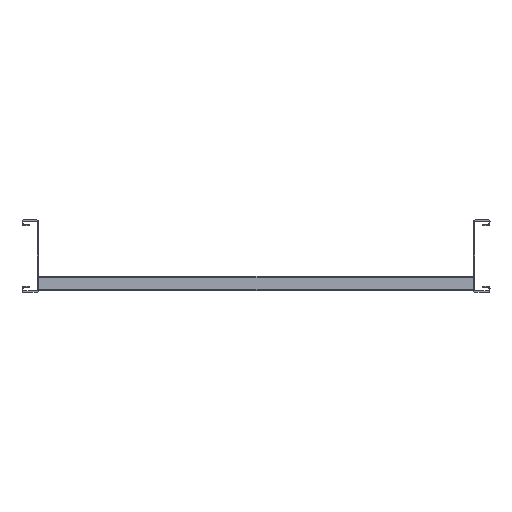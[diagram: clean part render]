
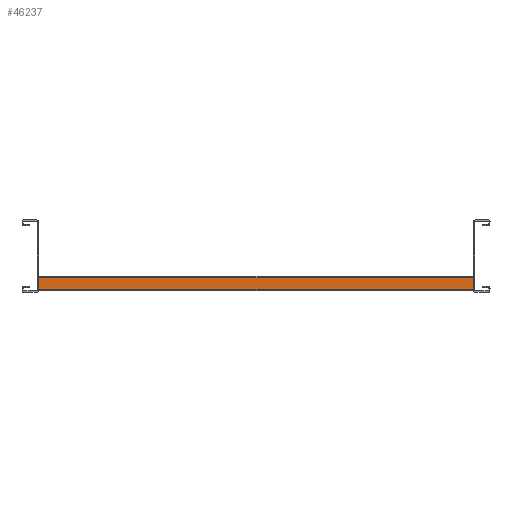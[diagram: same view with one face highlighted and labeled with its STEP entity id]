
A CAD part, left-side view. The second image highlights one B-rep face of the part: STEP entity #46237.
In plain terms, the highlighted planar face has unit normal (-1, 0, 0) as drawn and (0, 1, 0) by its records, which use the part's own axes.
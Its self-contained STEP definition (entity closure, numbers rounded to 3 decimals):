
#3223=FACE_OUTER_BOUND('',#6361,.T.);
#6361=EDGE_LOOP('',(#41714,#41715,#41716,#41717));
#12551=LINE('',#71196,#18711);
#12557=LINE('',#71213,#18717);
#12698=LINE('',#71738,#18858);
#12699=LINE('',#71740,#18859);
#18711=VECTOR('',#58586,304.8);
#18717=VECTOR('',#58598,304.8);
#18858=VECTOR('',#59007,304.8);
#18859=VECTOR('',#59010,304.8);
#22946=VERTEX_POINT('',#71193);
#22947=VERTEX_POINT('',#71195);
#22954=VERTEX_POINT('',#71210);
#22955=VERTEX_POINT('',#71212);
#29146=EDGE_CURVE('',#22946,#22947,#12551,.T.);
#29154=EDGE_CURVE('',#22954,#22955,#12557,.T.);
#29418=EDGE_CURVE('',#22955,#22946,#12698,.T.);
#29419=EDGE_CURVE('',#22954,#22947,#12699,.T.);
#41714=ORIENTED_EDGE('',*,*,#29146,.F.);
#41715=ORIENTED_EDGE('',*,*,#29418,.F.);
#41716=ORIENTED_EDGE('',*,*,#29154,.F.);
#41717=ORIENTED_EDGE('',*,*,#29419,.T.);
#44180=PLANE('',#48538);
#46237=ADVANCED_FACE('',(#3223),#44180,.T.);
#48538=AXIS2_PLACEMENT_3D('',#71739,#59008,#59009);
#58586=DIRECTION('',(0.,0.,-1.));
#58598=DIRECTION('',(0.,0.,1.));
#59007=DIRECTION('',(-1.,0.,0.));
#59008=DIRECTION('center_axis',(0.,1.,0.));
#59009=DIRECTION('ref_axis',(1.,0.,0.));
#59010=DIRECTION('',(-1.,0.,0.));
#71193=CARTESIAN_POINT('',(0.,20.,8.5));
#71195=CARTESIAN_POINT('',(0.,20.,-8.5));
#71196=CARTESIAN_POINT('',(0.,20.,8.5));
#71210=CARTESIAN_POINT('',(600.,20.,-8.5));
#71212=CARTESIAN_POINT('',(600.,20.,8.5));
#71213=CARTESIAN_POINT('',(600.,20.,-8.5));
#71738=CARTESIAN_POINT('',(0.,20.,8.5));
#71739=CARTESIAN_POINT('Origin',(0.,20.,8.5));
#71740=CARTESIAN_POINT('',(0.,20.,-8.5));
